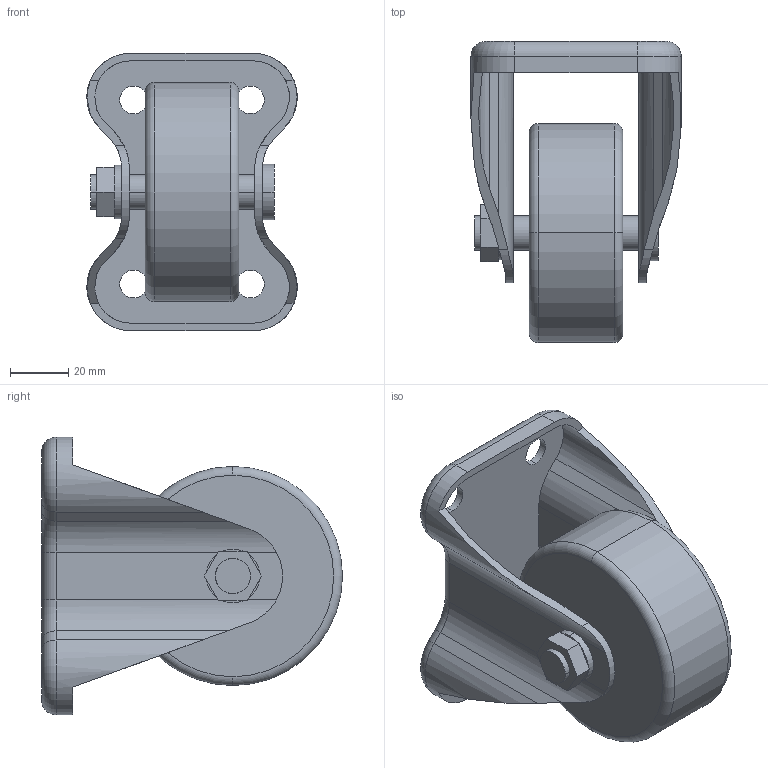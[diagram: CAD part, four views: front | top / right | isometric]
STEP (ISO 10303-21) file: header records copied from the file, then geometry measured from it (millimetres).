
FILE_DESCRIPTION (( 'STEP AP214' ), '1' );
FILE_NAME ('GUK-75.STEP', '2020-03-23T14:20:13', ( '' ), ( '' ), 'SwSTEP 2.0', 'SolidWorks 2019', '' );
FILE_SCHEMA (( 'AUTOMOTIVE_DESIGN' ));
Length unit declared in the file: millimetre
Products named in the file (6): M_nut; GUK-75_partsA; GUK-75_wheel; GUK-75_jiku; M_SW; GUK-75
Assembly tree (5 placements, depth 2):
  GUK-75
    GUK-75_partsA
    GUK-75_wheel
    GUK-75_jiku
    M_SW
    M_nut
Bounding box: 71.98 x 103 x 95 mm (x, y, z)
Volume: 184161.4 mm3; surface area: 53266.5 mm2
Topology: 5 solids, 5 shells, 103 faces, 256 edges, 164 vertices
Faces by surface type: cylinder 52, plane 39, torus 12
Entity records: 3444 total; most frequent: CARTESIAN_POINT 679, DIRECTION 566, ORIENTED_EDGE 512, EDGE_CURVE 256, AXIS2_PLACEMENT_3D 223, VERTEX_POINT 164, EDGE_LOOP 122, VECTOR 120
